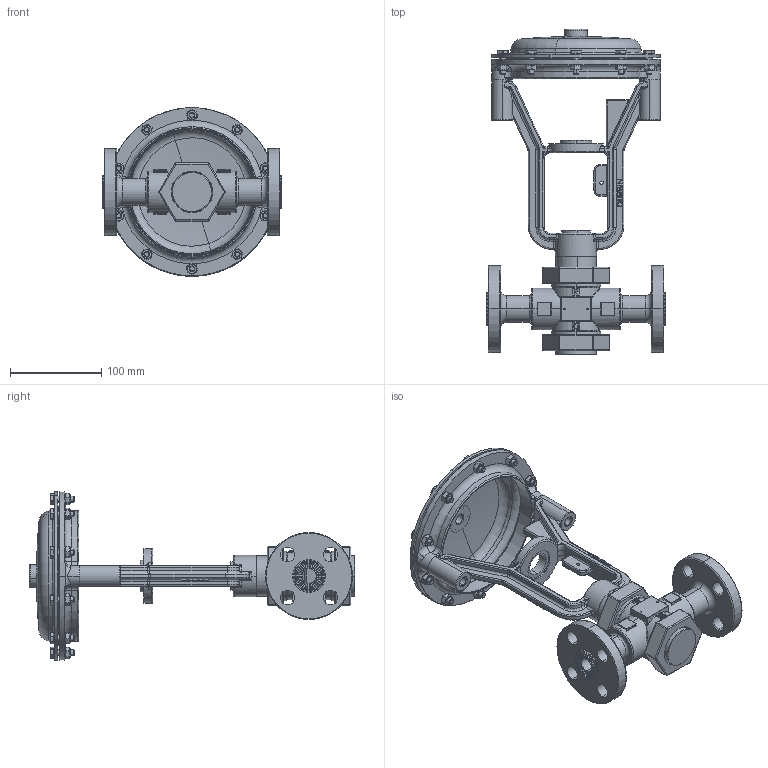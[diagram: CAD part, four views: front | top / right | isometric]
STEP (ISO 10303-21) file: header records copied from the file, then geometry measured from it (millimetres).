
FILE_DESCRIPTION (( 'STEP AP203' ), '1' );
FILE_NAME ('.50-.75 2W NC FLANGE LF-STEP.STEP', '2018-11-07T15:39:07', ( '' ), ( '' ), 'SwSTEP 2.0', 'SolidWorks 2012', '' );
FILE_SCHEMA (( 'CONFIG_CONTROL_DESIGN' ));
Length unit declared in the file: inch
Products named in the file (12): .50-.75 2W NC FLANGE LF-STEP; H096-10; H060-03; C293-023DW; D771; C293-023DM; C893-015D-AL; D283-021D-AL; C663-022D-SS; C213-016D-SS; C113-058D-SS; LF400F-SS
Assembly tree (30 placements, depth 3):
  .50-.75 2W NC FLANGE LF-STEP
    LF400F-SS
    C113-058D-SS
    C213-016D-SS
    C663-022D-SS  x2
    D283-021D-AL
    C893-015D-AL
    C293-023DW
      C293-023DM
      D771
    H060-03  x10
    H096-10  x10
Bounding box: 195.25 x 356.21 x 184.53 mm (x, y, z)
Volume: 845145.4 mm3; surface area: 307760.5 mm2
Topology: 29 solids, 29 shells, 3338 faces, 7806 edges, 4533 vertices
Faces by surface type: plane 950, cylinder 720, bspline 628, cone 417, torus 328, sphere 295
Entity records: 110285 total; most frequent: CARTESIAN_POINT 57023, ORIENTED_EDGE 11316, DIRECTION 9819, EDGE_CURVE 5658, AXIS2_PLACEMENT_3D 3737, VERTEX_POINT 3489, EDGE_LOOP 2531, LINE 2345
